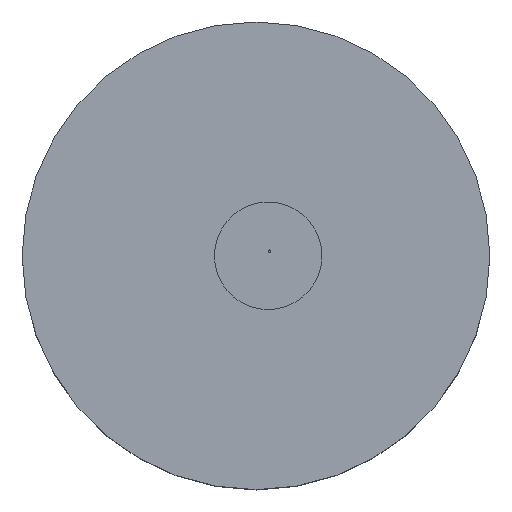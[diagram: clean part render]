
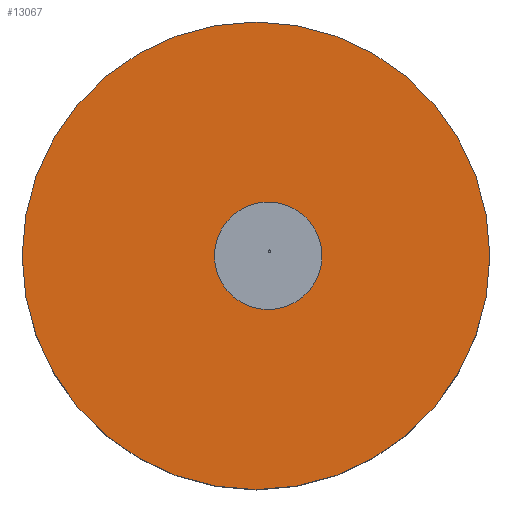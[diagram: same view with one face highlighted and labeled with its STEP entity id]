
A CAD part, top view. The second image highlights one B-rep face of the part: STEP entity #13067.
In plain terms, the highlighted planar face has unit normal (0, 0, 1) as drawn and (0, -1, 0) by its records, which use the part's own axes.
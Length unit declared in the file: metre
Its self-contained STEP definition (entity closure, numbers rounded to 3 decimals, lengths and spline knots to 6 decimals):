
#12978=CARTESIAN_POINT('',(0.,0.,0.));
#12979=DIRECTION('',(0.,1.,0.));
#12980=DIRECTION('',(1.,0.,0.));
#12981=AXIS2_PLACEMENT_3D('',#12978,#12979,#12980);
#12983=CARTESIAN_POINT('',(0.,0.,0.));
#12984=DIRECTION('',(0.,1.,0.));
#12985=DIRECTION('',(-1.,0.,0.));
#12986=AXIS2_PLACEMENT_3D('',#12983,#12984,#12985);
#12988=CARTESIAN_POINT('',(-0.025999,0.,0.));
#12989=DIRECTION('',(0.,1.,0.));
#12990=DIRECTION('',(0.,0.,1.));
#12991=AXIS2_PLACEMENT_3D('',#12988,#12989,#12990);
#12993=CARTESIAN_POINT('',(-0.025999,0.,0.));
#12994=DIRECTION('',(0.,1.,0.));
#12995=DIRECTION('',(0.,0.,-1.));
#12996=AXIS2_PLACEMENT_3D('',#12993,#12994,#12995);
#13034=CARTESIAN_POINT('',(0.5,0.,0.));
#13035=CARTESIAN_POINT('',(-0.5,0.,0.));
#13036=VERTEX_POINT('',#13034);
#13037=VERTEX_POINT('',#13035);
#13042=CARTESIAN_POINT('',(-0.025999,0.,0.115));
#13043=CARTESIAN_POINT('',(-0.025999,0.,-0.115));
#13044=VERTEX_POINT('',#13042);
#13045=VERTEX_POINT('',#13043);
#13050=CARTESIAN_POINT('',(0.,0.,0.));
#13051=DIRECTION('',(0.,1.,0.));
#13052=DIRECTION('',(1.,0.,0.));
#13053=AXIS2_PLACEMENT_3D('',#13050,#13051,#13052);
#13054=PLANE('',#13053);
#13056=ORIENTED_EDGE('',*,*,#13055,.T.);
#13058=ORIENTED_EDGE('',*,*,#13057,.T.);
#13059=EDGE_LOOP('',(#13056,#13058));
#13060=FACE_OUTER_BOUND('',#13059,.F.);
#13062=ORIENTED_EDGE('',*,*,#13061,.F.);
#13064=ORIENTED_EDGE('',*,*,#13063,.F.);
#13065=EDGE_LOOP('',(#13062,#13064));
#13066=FACE_BOUND('',#13065,.F.);
#13067=ADVANCED_FACE('',(#13060,#13066),#13054,.F.);
#12982=CIRCLE('',#12981,0.5);
#12987=CIRCLE('',#12986,0.5);
#12992=CIRCLE('',#12991,0.115);
#12997=CIRCLE('',#12996,0.115);
#13055=EDGE_CURVE('',#13036,#13037,#12982,.T.);
#13057=EDGE_CURVE('',#13037,#13036,#12987,.T.);
#13061=EDGE_CURVE('',#13044,#13045,#12992,.T.);
#13063=EDGE_CURVE('',#13045,#13044,#12997,.T.);
